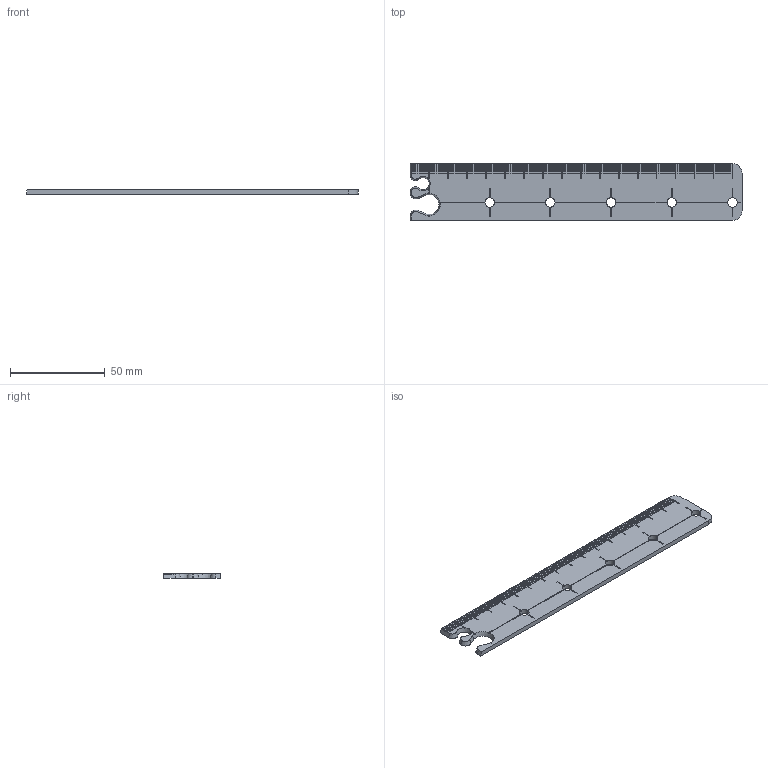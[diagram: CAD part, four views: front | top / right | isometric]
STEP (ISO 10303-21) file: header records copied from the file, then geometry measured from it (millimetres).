
FILE_DESCRIPTION(('CATIA V5 STEP','CAx-IF Rec.Pracs.--- Model Styling and Organization---1.5--- 2016-08-15','CAx-IF Rec.Pracs.---Supplemental Geometry---1.0---2011-11-01','CAx-IF Rec.Pracs.--- Composite Materials ---1.1---2010-07-15'),'2;1');
FILE_NAME('P:\Pu2kue\Küchensysteme\System wertig\König\KICKBOX\3D-Druck Modelle\Schablone Lochreihe 32er 1.stp','2022-08-11T13:02:57+00:00',('none'),('none'),'CATIA Version 5-6 Release 2020 SP4','CATIA V5 STEP AP214 v2','none');
FILE_SCHEMA(('AUTOMOTIVE_DESIGN { 1 0 10303 214 1 1 1 1 }'));
Length unit declared in the file: millimetre
Products named in the file (1): Griffschablone_Lineal
Bounding box: 174.96 x 30 x 2.5 mm (x, y, z)
Volume: 12184 mm3; surface area: 12090.4 mm2
Topology: 1 solids, 1 shells, 776 faces, 2348 edges, 1573 vertices
Faces by surface type: plane 758, cylinder 12, cone 6
Entity records: 25535 total; most frequent: CARTESIAN_POINT 7120, ORIENTED_EDGE 4690, DIRECTION 2529, EDGE_CURVE 2345, VECTOR 1694, LINE 1694, VERTEX_POINT 1566, EDGE_LOOP 781
